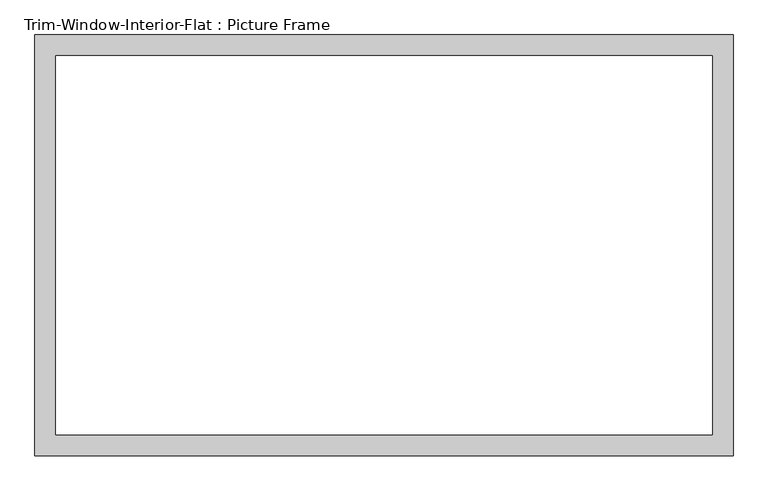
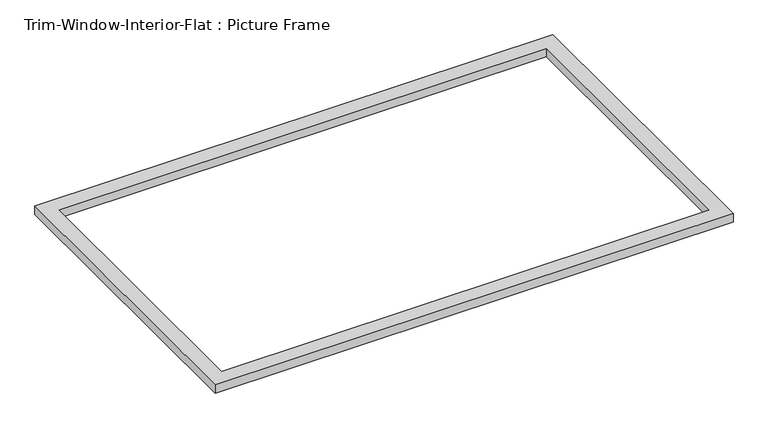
"""IFC4 building model written with IfcOpenShell, lengths in millimetres: proxy geometry, Trim-Window-Interior-Flat : Picture Frame."""

from ifc_helpers import new_model, si_unit, origin, origin_with_axes, place, context, project, spatial, polyline, outline, extrude, source, transform, mapped, element, save


def trim_window_interior_flat_picture_frame_689dbe4f(model_context):
    return source(origin(), model_context, "Body", "SweptSolid", [
        extrude(outline(polyline([(958.85, 44.45), (958.85, -1111.25), (-958.85, -1111.25), (-958.85, 44.45), (958.85, 44.45)]), holes=[polyline([(901.7, -12.7), (-901.7, -12.7), (-901.7, -1054.1), (901.7, -1054.1), (901.7, -12.7)])]), origin_with_axes(), (0.0, 0.0, 1.0), 31.75),
    ])


if __name__ == "__main__":
    model = new_model("IFC4")
    model_context = context("Model", 3, world=origin())
    ifc_project = project(units=[si_unit("LENGTHUNIT", "METRE", prefix="MILLI")], contexts=[model_context])
    site = spatial("IfcSite", under=ifc_project)
    building = spatial("IfcBuilding", under=site)
    placement = place(None, origin())
    trim_window_interior_flat_picture_frame_shape = trim_window_interior_flat_picture_frame_689dbe4f(model_context)
    element("IfcBuildingElementProxy", 1, Name="Trim-Window-Interior-Flat : Picture Frame", ObjectType="Trim-Window-Interior-Flat : Picture Frame", at=placement, inside=building, context=model_context, shape_type="MappedRepresentation", body=[
        mapped(trim_window_interior_flat_picture_frame_shape, transform((0.0, 0.0, 0.0), x_axis=(1.0, 0.0, 0.0), y_axis=(0.0, 1.0, 0.0), z_axis=(0.0, 0.0, 1.0))),
    ])
    save(model, "model.ifc")
